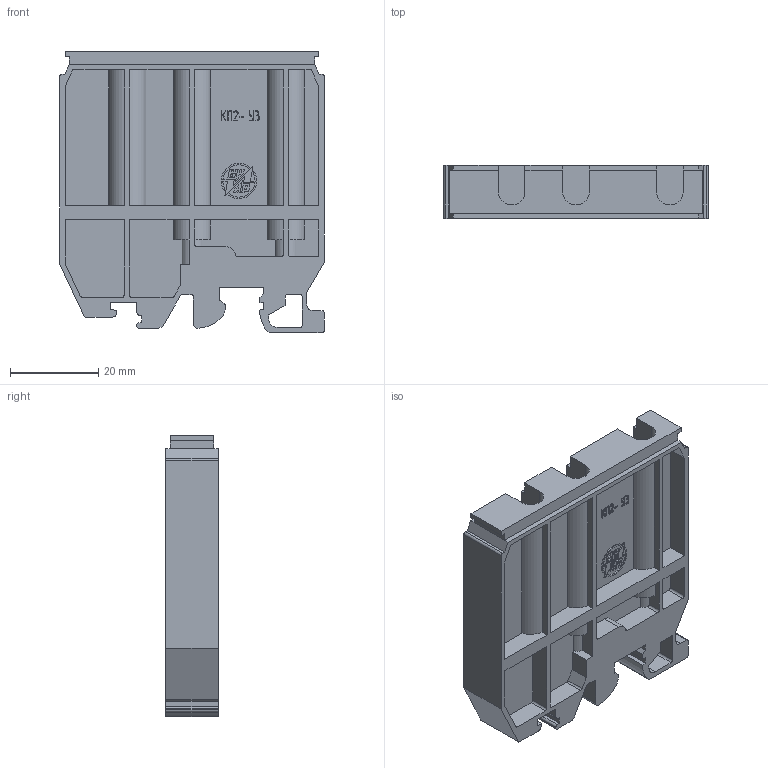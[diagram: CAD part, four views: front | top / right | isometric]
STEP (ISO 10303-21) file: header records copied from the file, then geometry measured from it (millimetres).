
FILE_DESCRIPTION(('STEP AP214'), '1');
FILE_NAME('砎鳽鳻 庌2 (諘罻踮鴀鳭) 黓羻僾鴀', '', ('UNSPECIFIED'), ('UNSPECIFIED'), 'ASCON STEP Converter 1.6', 'ASCON Math Kernel', '');
FILE_SCHEMA(('AUTOMOTIVE_DESIGN { 1 0 10303 214 3 1 1}'));
Length unit declared in the file: millimetre
Bounding box: 60 x 12 x 63.8 mm (x, y, z)
Volume: 20158.7 mm3; surface area: 16898.5 mm2
Topology: 1 solids, 1 shells, 673 faces, 1919 edges, 1278 vertices
Faces by surface type: plane 445, cylinder 228
Entity records: 27403 total; most frequent: CARTESIAN_POINT 3972, ORIENTED_EDGE 3838, DIRECTION 3708, EDGE_CURVE 1919, LINE 1462, VECTOR 1462, VERTEX_POINT 1278, AXIS2_PLACEMENT_3D 1123
